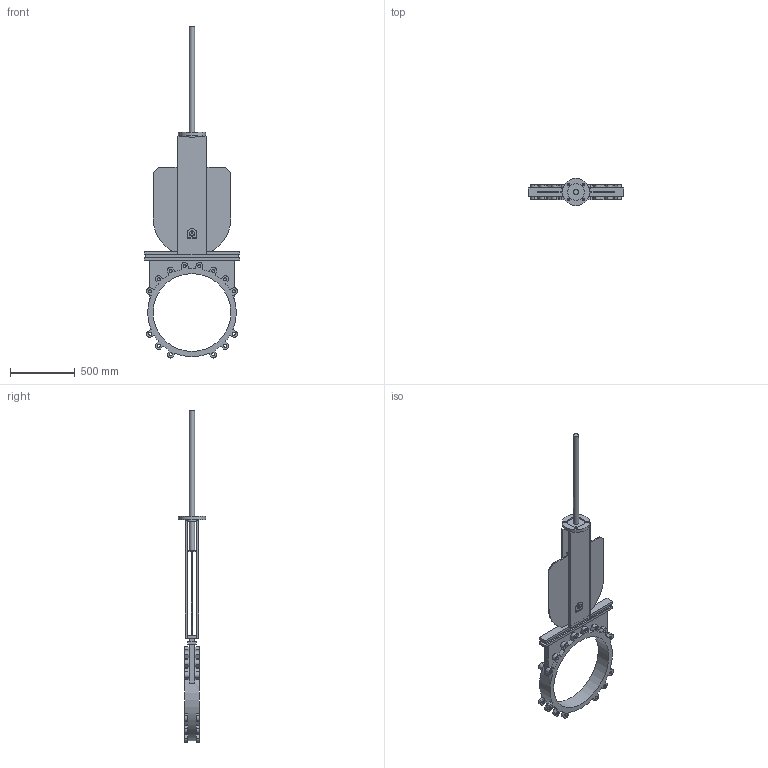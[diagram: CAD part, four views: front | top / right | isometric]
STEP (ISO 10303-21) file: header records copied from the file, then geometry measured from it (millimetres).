
FILE_DESCRIPTION(('STEP AP203'), '1');
FILE_NAME('K21GVA_DN600', '', ('UNSPECIFIED'), ('UNSPECIFIED'), 'ASCON STEP Converter 1.6', 'ASCON Math Kernel', '');
FILE_SCHEMA(('CONFIG_CONTROL_DESIGN'));
Length unit declared in the file: millimetre
Bounding box: 740 x 210 x 2560.42 mm (x, y, z)
Volume: 24095281.2 mm3; surface area: 3074839.6 mm2
Topology: 1 solids, 1 shells, 315 faces, 898 edges, 593 vertices
Faces by surface type: plane 152, cylinder 146, cone 17
Full cylindrical faces by diameter (mm): 22 x4, 23.752 x28, 40 x2, 80 x1, 130 x1, 210 x1, 600 x1
Entity records: 12566 total; most frequent: DIRECTION 1792, CARTESIAN_POINT 1720, ORIENTED_EDGE 1654, EDGE_CURVE 827, AXIS2_PLACEMENT_3D 649, VERTEX_POINT 577, LINE 494, VECTOR 494
